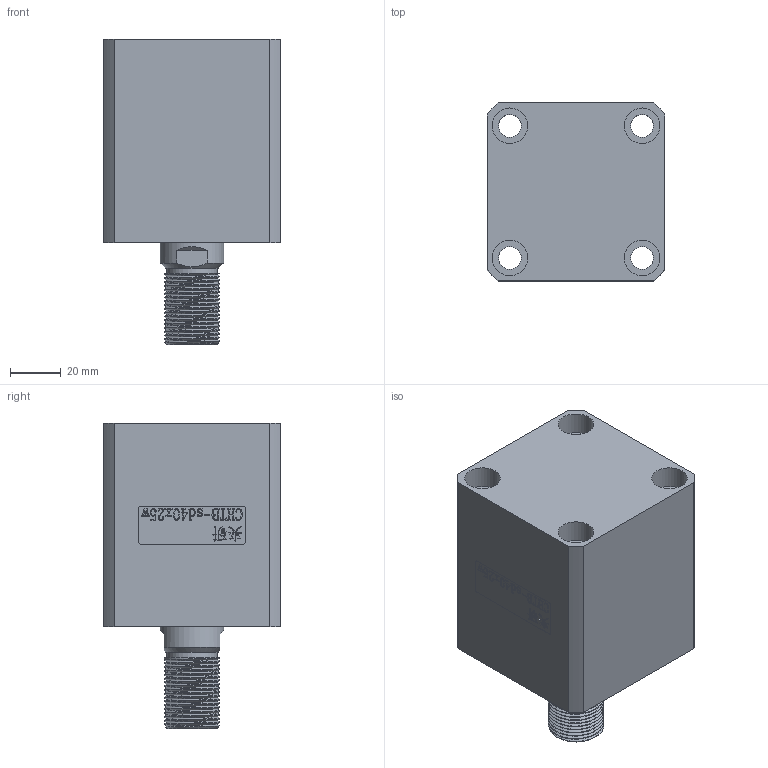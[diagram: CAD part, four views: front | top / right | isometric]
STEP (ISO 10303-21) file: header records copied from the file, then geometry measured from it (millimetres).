
FILE_DESCRIPTION(/* description */ (''),/* implementation_level */ '2;1');
FILE_NAME(/* name */ 'CHTB-sd40x25w.stp',/* time_stamp */ '2022-04-29T17:39:30+08:00',/* author */ (''),/* organization */ (''),/* preprocessor_version */ 'ST-DEVELOPER v16.7',/* originating_system */ 'SIEMENS PLM Software NX 12.0',/* authorisation */ '');
FILE_SCHEMA (('AUTOMOTIVE_DESIGN { 1 0 10303 214 3 1 1 1 }'));
Length unit declared in the file: millimetre
Products named in the file (1): CHTB-sd40x25w
Bounding box: 70 x 70 x 120 mm (x, y, z)
Volume: 352324 mm3; surface area: 75907 mm2
Topology: 3 solids, 4 shells, 453 faces, 1276 edges, 877 vertices
Faces by surface type: plane 294, extrusion 93, cylinder 40, torus 11, bspline 8, cone 7
Full cylindrical faces by diameter (mm): 4.2 x2, 5 x3, 9 x4, 10.7 x2, 14 x8, 20 x1, 25 x2, 29 x1, 34 x2, 40 x4, 45 x1
Entity records: 22614 total; most frequent: CARTESIAN_POINT 9207, ORIENTED_EDGE 2424, DIRECTION 1800, EDGE_CURVE 1212, VECTOR 904, VERTEX_POINT 862, LINE 811, EDGE_LOOP 560
